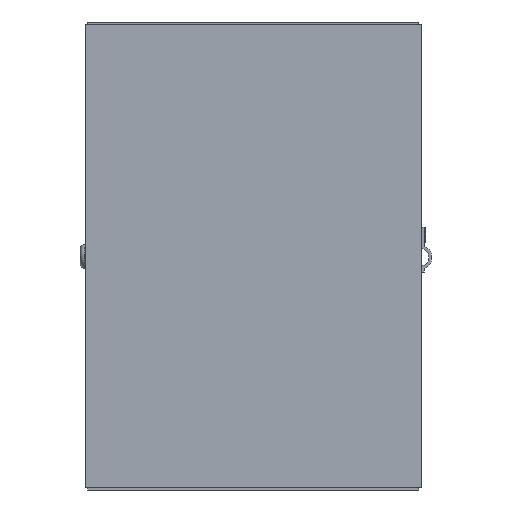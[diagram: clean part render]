
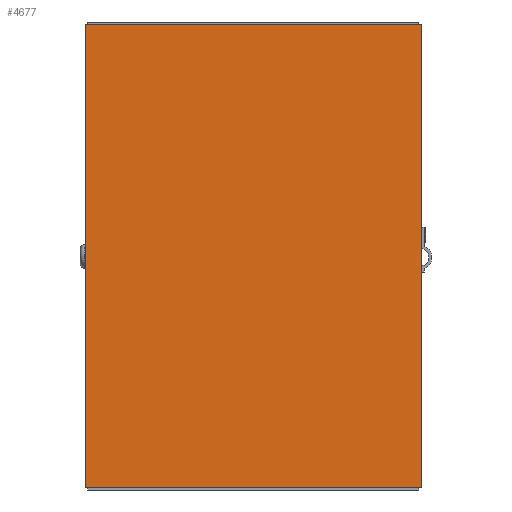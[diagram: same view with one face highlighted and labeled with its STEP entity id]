
A CAD part, front view. The second image highlights one B-rep face of the part: STEP entity #4677.
In plain terms, the highlighted planar face has unit normal (0, -1, 0).
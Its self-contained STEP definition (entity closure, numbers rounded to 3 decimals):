
#4677=ADVANCED_FACE('',(#7231),#6311,.T.);
#6311=PLANE('',#30784);
#7231=FACE_OUTER_BOUND('',#8289,.T.);
#8289=EDGE_LOOP('',(#11335,#11336,#11337,#11338));
#11335=ORIENTED_EDGE('',*,*,#21977,.F.);
#11336=ORIENTED_EDGE('',*,*,#21976,.F.);
#11337=ORIENTED_EDGE('',*,*,#21978,.T.);
#11338=ORIENTED_EDGE('',*,*,#21957,.T.);
#19102=VERTEX_POINT('',#42270);
#19103=VERTEX_POINT('',#42272);
#19119=VERTEX_POINT('',#42307);
#19120=VERTEX_POINT('',#42309);
#21957=EDGE_CURVE('',#19103,#19102,#25844,.T.);
#21976=EDGE_CURVE('',#19120,#19119,#25858,.T.);
#21977=EDGE_CURVE('',#19119,#19102,#25859,.T.);
#21978=EDGE_CURVE('',#19120,#19103,#25860,.T.);
#25844=LINE('',#42271,#28311);
#25858=LINE('',#42310,#28325);
#25859=LINE('',#42312,#28326);
#25860=LINE('',#42313,#28327);
#28311=VECTOR('',#33806,1.);
#28325=VECTOR('',#33834,1.);
#28326=VECTOR('',#33837,1.);
#28327=VECTOR('',#33838,1.);
#30784=AXIS2_PLACEMENT_3D('',#42314,#33839,#33840);
#33806=DIRECTION('',(0.,0.,1.));
#33834=DIRECTION('',(0.,0.,1.));
#33837=DIRECTION('',(1.,0.,0.));
#33838=DIRECTION('',(1.,0.,0.));
#33839=DIRECTION('',(0.,-1.,0.));
#33840=DIRECTION('',(0.,0.,1.));
#42270=CARTESIAN_POINT('',(2450.826,-140.134,93.1));
#42271=CARTESIAN_POINT('',(2450.826,-140.134,-93.5));
#42272=CARTESIAN_POINT('',(2450.826,-140.134,-92.9));
#42307=CARTESIAN_POINT('',(2315.826,-140.134,93.1));
#42309=CARTESIAN_POINT('',(2315.826,-140.134,-92.9));
#42310=CARTESIAN_POINT('',(2315.826,-140.134,-93.5));
#42312=CARTESIAN_POINT('',(2315.826,-140.134,93.1));
#42313=CARTESIAN_POINT('',(2315.826,-140.134,-92.9));
#42314=CARTESIAN_POINT('',(2315.826,-140.134,-93.5));
